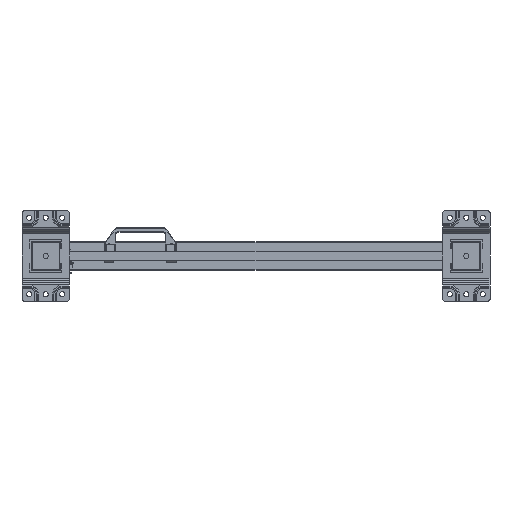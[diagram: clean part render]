
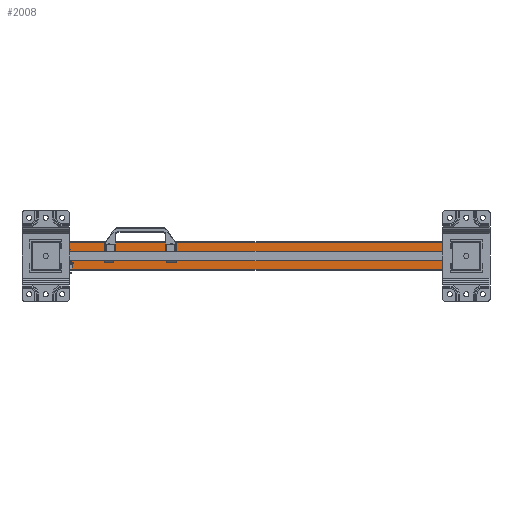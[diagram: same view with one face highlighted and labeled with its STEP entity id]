
A CAD part, front view. The second image highlights one B-rep face of the part: STEP entity #2008.
In plain terms, the highlighted planar face has unit normal (0, -1, 0).
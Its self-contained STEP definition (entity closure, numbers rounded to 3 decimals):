
#2008=ADVANCED_FACE('',(#5945),#5946,.T.);
#5945=FACE_OUTER_BOUND('',#12134,.T.);
#5946=PLANE('',#12135);
#12134=EDGE_LOOP('',(#19867,#19868,#19869,#19870));
#12135=AXIS2_PLACEMENT_3D('',#19871,#19872,#19873);
#19867=ORIENTED_EDGE('',*,*,#37314,.T.);
#19868=ORIENTED_EDGE('',*,*,#37315,.F.);
#19869=ORIENTED_EDGE('',*,*,#37316,.T.);
#19870=ORIENTED_EDGE('',*,*,#37304,.T.);
#19871=CARTESIAN_POINT('',(0.0,2339.0,30.));
#19872=DIRECTION('',(0.,-1.0,0.));
#19873=DIRECTION('',(-1.0,0.,0.0));
#37304=EDGE_CURVE('',#44474,#44472,#44475,.T.);
#37314=EDGE_CURVE('',#44472,#44487,#44488,.T.);
#37315=EDGE_CURVE('',#44489,#44487,#44490,.T.);
#37316=EDGE_CURVE('',#44489,#44474,#44491,.T.);
#44472=VERTEX_POINT('',#54990);
#44474=VERTEX_POINT('',#54993);
#44475=LINE('',#54994,#54995);
#44487=VERTEX_POINT('',#55013);
#44488=LINE('',#55014,#55015);
#44489=VERTEX_POINT('',#55016);
#44490=LINE('',#55017,#55018);
#44491=LINE('',#55019,#55020);
#54990=CARTESIAN_POINT('',(830.0,2339.0,-30.));
#54993=CARTESIAN_POINT('',(0.,2339.0,-30.));
#54994=CARTESIAN_POINT('',(0.,2339.0,-30.));
#54995=VECTOR('',#70836,10.0);
#55013=CARTESIAN_POINT('',(830.0,2339.0,30.));
#55014=CARTESIAN_POINT('',(830.0,2339.0,15.));
#55015=VECTOR('',#70843,1.0);
#55016=CARTESIAN_POINT('',(0.0,2339.0,30.));
#55017=CARTESIAN_POINT('',(0.0,2339.0,30.));
#55018=VECTOR('',#70844,10.0);
#55019=CARTESIAN_POINT('',(0.0,2339.0,30.));
#55020=VECTOR('',#70845,10.0);
#70836=DIRECTION('',(1.0,0.,0.));
#70843=DIRECTION('',(-0.0,0.,1.0));
#70844=DIRECTION('',(1.0,0.,0.));
#70845=DIRECTION('',(0.,0.,-1.0));
